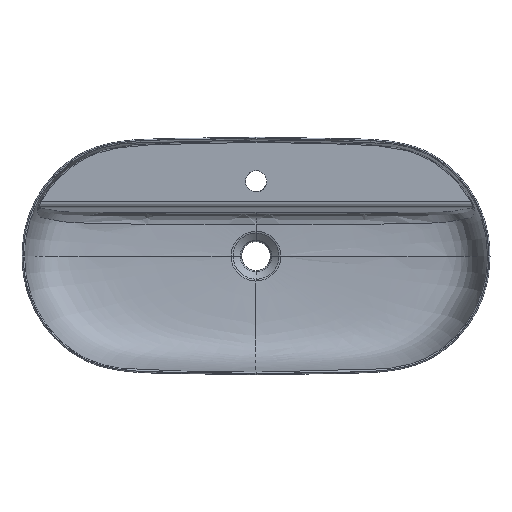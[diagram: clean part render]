
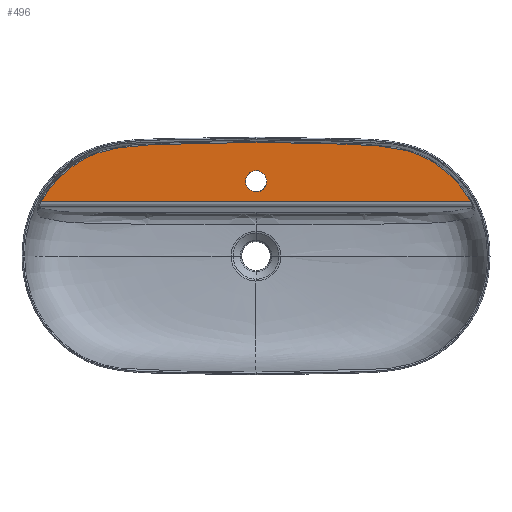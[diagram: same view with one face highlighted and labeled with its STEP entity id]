
A CAD part, top view. The second image highlights one B-rep face of the part: STEP entity #496.
In plain terms, the highlighted free-form (B-spline) face has degree [1, 1] with [2, 2] control points.
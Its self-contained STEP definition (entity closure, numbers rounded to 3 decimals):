
#362=B_SPLINE_SURFACE_WITH_KNOTS('',1,1,((#19582,#19583),(#19584,#19585)),
 .UNSPECIFIED.,.F.,.F.,.F.,(2,2),(2,2),(0.,1.),(0.,1.),.UNSPECIFIED.);
#429=FACE_BOUND('',#1041,.T.);
#430=FACE_BOUND('',#1042,.T.);
#496=ADVANCED_FACE('',(#429,#430),#362,.F.);
#1041=EDGE_LOOP('',(#1609,#1610,#1611));
#1042=EDGE_LOOP('',(#1612));
#1609=ORIENTED_EDGE('',*,*,#3150,.T.);
#1610=ORIENTED_EDGE('',*,*,#3151,.T.);
#1611=ORIENTED_EDGE('',*,*,#3152,.T.);
#1612=ORIENTED_EDGE('',*,*,#3153,.F.);
#2751=VERTEX_POINT('',#19533);
#2752=VERTEX_POINT('',#19534);
#2753=VERTEX_POINT('',#19553);
#2754=VERTEX_POINT('',#19581);
#3150=EDGE_CURVE('',#2751,#2752,#3737,.T.);
#3151=EDGE_CURVE('',#2752,#2753,#3738,.T.);
#3152=EDGE_CURVE('',#2753,#2751,#3739,.T.);
#3153=EDGE_CURVE('',#2754,#2754,#3740,.T.);
#3737=B_SPLINE_CURVE_WITH_KNOTS('',3,(#19513,#19514,#19515,#19516,#19517,
#19518,#19519,#19520,#19521,#19522,#19523,#19524,#19525,#19526,#19527,#19528,
#19529,#19530,#19531,#19532),.UNSPECIFIED.,.F.,.F.,(4,2,2,2,2,2,2,2,2,4),
(0.,0.125,0.188,0.25,0.313,0.375,0.5,0.625,0.75,1.),.UNSPECIFIED.);
#3738=B_SPLINE_CURVE_WITH_KNOTS('',3,(#19535,#19536,#19537,#19538,#19539,
#19540,#19541,#19542,#19543,#19544,#19545,#19546,#19547,#19548,#19549,#19550,
#19551,#19552),.UNSPECIFIED.,.F.,.F.,(4,2,2,2,2,2,2,2,4),(0.,0.25,0.375,
0.5,0.625,0.75,0.875,0.938,1.),.UNSPECIFIED.);
#3739=B_SPLINE_CURVE_WITH_KNOTS('',1,(#19554,#19555),.UNSPECIFIED.,.F.,
 .F.,(2,2),(0.,1.),.UNSPECIFIED.);
#3740=B_SPLINE_CURVE_WITH_KNOTS('',3,(#19556,#19557,#19558,#19559,#19560,
#19561,#19562,#19563,#19564,#19565,#19566,#19567,#19568,#19569,#19570,#19571,
#19572,#19573,#19574,#19575,#19576,#19577,#19578,#19579,#19580),
 .UNSPECIFIED.,.T.,.F.,(1,3,3,3,3,3,3,3,3,3,1),(-0.125,0.,0.125,0.25,0.375,
0.5,0.625,0.75,0.875,1.,1.125),.UNSPECIFIED.);
#19513=CARTESIAN_POINT('',(344.46,86.83,129.945));
#19514=CARTESIAN_POINT('',(336.698,100.658,130.186));
#19515=CARTESIAN_POINT('',(327.242,113.19,130.405));
#19516=CARTESIAN_POINT('',(310.664,130.158,130.701));
#19517=CARTESIAN_POINT('',(304.782,135.439,130.793));
#19518=CARTESIAN_POINT('',(292.468,145.067,130.961));
#19519=CARTESIAN_POINT('',(286.01,149.441,131.038));
#19520=CARTESIAN_POINT('',(272.441,157.233,131.174));
#19521=CARTESIAN_POINT('',(265.237,160.64,131.233));
#19522=CARTESIAN_POINT('',(250.492,166.291,131.332));
#19523=CARTESIAN_POINT('',(242.985,168.539,131.371));
#19524=CARTESIAN_POINT('',(220.171,174.022,131.467));
#19525=CARTESIAN_POINT('',(204.53,176.013,131.501));
#19526=CARTESIAN_POINT('',(173.107,178.45,131.544));
#19527=CARTESIAN_POINT('',(157.373,178.891,131.552));
#19528=CARTESIAN_POINT('',(125.906,179.803,131.568));
#19529=CARTESIAN_POINT('',(110.172,180.246,131.575));
#19530=CARTESIAN_POINT('',(62.968,181.468,131.597));
#19531=CARTESIAN_POINT('',(31.493,182.097,131.608));
#19532=CARTESIAN_POINT('',(0.,182.097,131.608));
#19533=CARTESIAN_POINT('',(344.46,86.83,129.945));
#19534=CARTESIAN_POINT('',(0.,182.097,131.608));
#19535=CARTESIAN_POINT('',(0.,182.097,131.608));
#19536=CARTESIAN_POINT('',(-31.444,182.097,131.608));
#19537=CARTESIAN_POINT('',(-62.868,181.47,131.597));
#19538=CARTESIAN_POINT('',(-109.995,180.251,131.575));
#19539=CARTESIAN_POINT('',(-125.703,179.809,131.568));
#19540=CARTESIAN_POINT('',(-157.117,178.898,131.552));
#19541=CARTESIAN_POINT('',(-172.825,178.462,131.544));
#19542=CARTESIAN_POINT('',(-204.192,176.049,131.502));
#19543=CARTESIAN_POINT('',(-219.913,174.059,131.467));
#19544=CARTESIAN_POINT('',(-250.221,166.824,131.341));
#19545=CARTESIAN_POINT('',(-264.875,161.507,131.248));
#19546=CARTESIAN_POINT('',(-292.574,145.74,130.973));
#19547=CARTESIAN_POINT('',(-304.9,136.014,130.803));
#19548=CARTESIAN_POINT('',(-321.477,119.112,130.508));
#19549=CARTESIAN_POINT('',(-326.69,113.053,130.402));
#19550=CARTESIAN_POINT('',(-336.219,100.395,130.181));
#19551=CARTESIAN_POINT('',(-340.564,93.771,130.066));
#19552=CARTESIAN_POINT('',(-344.46,86.83,129.945));
#19553=CARTESIAN_POINT('',(-344.46,86.83,129.945));
#19554=CARTESIAN_POINT('',(-344.46,86.83,129.945));
#19555=CARTESIAN_POINT('',(344.46,86.83,129.945));
#19556=CARTESIAN_POINT('',(0.,136.778,130.817));
#19557=CARTESIAN_POINT('',(-4.454,136.778,130.817));
#19558=CARTESIAN_POINT('',(-8.874,134.945,130.785));
#19559=CARTESIAN_POINT('',(-12.021,131.798,130.73));
#19560=CARTESIAN_POINT('',(-15.167,128.652,130.675));
#19561=CARTESIAN_POINT('',(-17.,124.228,130.597));
#19562=CARTESIAN_POINT('',(-17.,119.778,130.52));
#19563=CARTESIAN_POINT('',(-17.,115.327,130.442));
#19564=CARTESIAN_POINT('',(-15.167,110.903,130.365));
#19565=CARTESIAN_POINT('',(-12.021,107.757,130.31));
#19566=CARTESIAN_POINT('',(-8.874,104.61,130.255));
#19567=CARTESIAN_POINT('',(-4.447,102.778,130.223));
#19568=CARTESIAN_POINT('',(0.,102.778,130.223));
#19569=CARTESIAN_POINT('',(4.447,102.777,130.223));
#19570=CARTESIAN_POINT('',(8.874,104.61,130.255));
#19571=CARTESIAN_POINT('',(12.021,107.757,130.31));
#19572=CARTESIAN_POINT('',(15.167,110.903,130.365));
#19573=CARTESIAN_POINT('',(17.,115.327,130.442));
#19574=CARTESIAN_POINT('',(17.,119.778,130.52));
#19575=CARTESIAN_POINT('',(17.,124.228,130.597));
#19576=CARTESIAN_POINT('',(15.167,128.652,130.675));
#19577=CARTESIAN_POINT('',(12.021,131.798,130.73));
#19578=CARTESIAN_POINT('',(8.874,134.945,130.785));
#19579=CARTESIAN_POINT('',(4.449,136.778,130.817));
#19580=CARTESIAN_POINT('',(0.,136.778,130.817));
#19581=CARTESIAN_POINT('',(0.,136.778,130.817));
#19582=CARTESIAN_POINT('',(-447.443,51.232,129.323));
#19583=CARTESIAN_POINT('',(447.442,51.232,129.323));
#19584=CARTESIAN_POINT('',(-447.443,218.639,132.245));
#19585=CARTESIAN_POINT('',(447.442,218.639,132.245));
